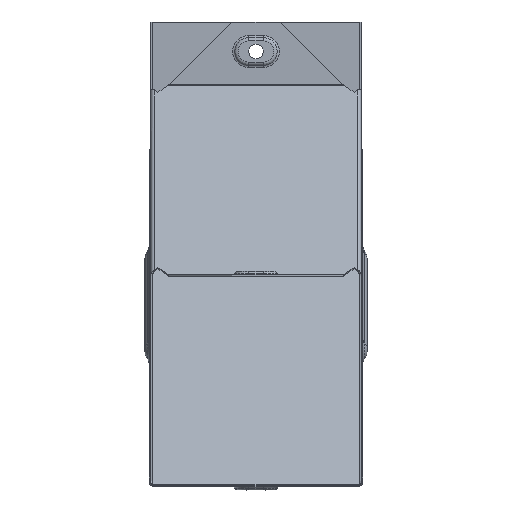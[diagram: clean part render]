
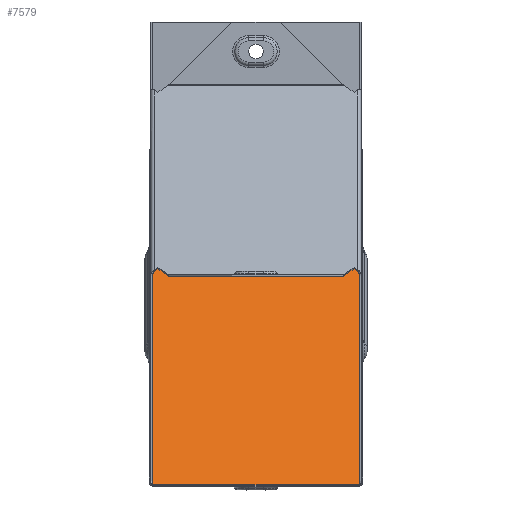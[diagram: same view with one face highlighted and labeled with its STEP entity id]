
A CAD part, front view. The second image highlights one B-rep face of the part: STEP entity #7579.
In plain terms, the highlighted planar face has unit normal (0, -0.707, 0.707).
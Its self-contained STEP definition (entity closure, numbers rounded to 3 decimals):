
#178 = DIRECTION ( 'NONE',  ( 0., 0.707, -0.707 ) ) ;
#764 = VERTEX_POINT ( 'NONE', #6486 ) ;
#780 = DIRECTION ( 'NONE',  ( -1., 0., 0. ) ) ;
#802 = DIRECTION ( 'NONE',  ( 0., 0.707, 0.707 ) ) ;
#823 = CARTESIAN_POINT ( 'NONE',  ( 49., 85.718, -85.718 ) ) ;
#844 = CARTESIAN_POINT ( 'NONE',  ( -49., 11.73, -159.707 ) ) ;
#1131 = CARTESIAN_POINT ( 'NONE',  ( -49., 85.718, -85.718 ) ) ;
#1153 = VERTEX_POINT ( 'NONE', #844 ) ;
#1248 = LINE ( 'NONE', #7138, #5266 ) ;
#1293 = ORIENTED_EDGE ( 'NONE', *, *, #6931, .T. ) ;
#1508 = VECTOR ( 'NONE', #3108, 1000. ) ;
#1751 = ORIENTED_EDGE ( 'NONE', *, *, #4700, .F. ) ;
#1801 = CARTESIAN_POINT ( 'NONE',  ( -49., 159.707, -11.73 ) ) ;
#1980 = LINE ( 'NONE', #1131, #7087 ) ;
#2172 = EDGE_CURVE ( 'NONE', #764, #7369, #1248, .T. ) ;
#3093 = DIRECTION ( 'NONE',  ( 0., -0.707, -0.707 ) ) ;
#3108 = DIRECTION ( 'NONE',  ( 0., -0.707, -0.707 ) ) ;
#3166 = VECTOR ( 'NONE', #4722, 1000. ) ;
#3305 = ORIENTED_EDGE ( 'NONE', *, *, #2172, .T. ) ;
#3430 = PLANE ( 'NONE',  #4682 ) ;
#3563 = ORIENTED_EDGE ( 'NONE', *, *, #7585, .F. ) ;
#4027 = CARTESIAN_POINT ( 'NONE',  ( 49., 11.73, -159.707 ) ) ;
#4366 = LINE ( 'NONE', #4027, #3166 ) ;
#4682 = AXIS2_PLACEMENT_3D ( 'NONE', #823, #178, #802 ) ;
#4700 = EDGE_CURVE ( 'NONE', #764, #4719, #4827, .T. ) ;
#4719 = VERTEX_POINT ( 'NONE', #8244 ) ;
#4722 = DIRECTION ( 'NONE',  ( -1., 0., 0. ) ) ;
#4827 = LINE ( 'NONE', #7542, #1508 ) ;
#5089 = EDGE_LOOP ( 'NONE', ( #1293, #3563, #1751, #3305 ) ) ;
#5266 = VECTOR ( 'NONE', #780, 1000. ) ;
#5281 = FACE_OUTER_BOUND ( 'NONE', #5089, .T. ) ;
#6486 = CARTESIAN_POINT ( 'NONE',  ( 49., 159.707, -11.73 ) ) ;
#6931 = EDGE_CURVE ( 'NONE', #7369, #1153, #1980, .T. ) ;
#7087 = VECTOR ( 'NONE', #3093, 1000. ) ;
#7138 = CARTESIAN_POINT ( 'NONE',  ( 49., 159.707, -11.73 ) ) ;
#7369 = VERTEX_POINT ( 'NONE', #1801 ) ;
#7542 = CARTESIAN_POINT ( 'NONE',  ( 49., 85.718, -85.718 ) ) ;
#7579 = ADVANCED_FACE ( 'NONE', ( #5281 ), #3430, .F. ) ;
#7585 = EDGE_CURVE ( 'NONE', #4719, #1153, #4366, .T. ) ;
#8244 = CARTESIAN_POINT ( 'NONE',  ( 49., 11.73, -159.707 ) ) ;
